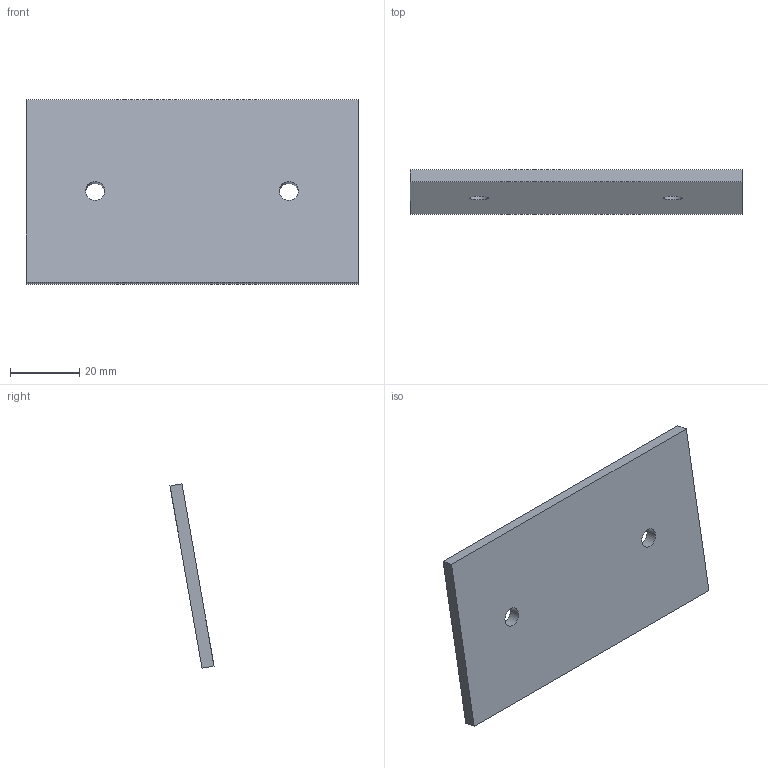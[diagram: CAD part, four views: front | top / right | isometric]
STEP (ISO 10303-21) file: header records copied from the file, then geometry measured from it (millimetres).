
FILE_DESCRIPTION(('golf model'),'2;1');
FILE_NAME('golf','',(''),(''),'golf_step_io','golf','');
FILE_SCHEMA(('AUTOMOTIVE_DESIGN { 1 0 10303 214 1 1 1 1 }'));
Length unit declared in the file: millimetre
Products named in the file (2): ASSEMBLY; counterweight.shoe_bottom_2
Assembly tree (1 placements, depth 2):
  ASSEMBLY
    counterweight.shoe_bottom_2
Bounding box: 96 x 12.74 x 53.3 mm (x, y, z)
Volume: 17810.1 mm3; surface area: 11344.6 mm2
Topology: 1 solids, 1 shells, 8 faces, 18 edges, 12 vertices
Faces by surface type: plane 6, cylinder 2
Full cylindrical faces by diameter (mm): 5.5 x2
Entity records: 258 total; most frequent: DIRECTION 40, CARTESIAN_POINT 38, ORIENTED_EDGE 32, EDGE_CURVE 16, AXIS2_PLACEMENT_3D 14, EDGE_LOOP 14, VERTEX_POINT 12, VECTOR 12
